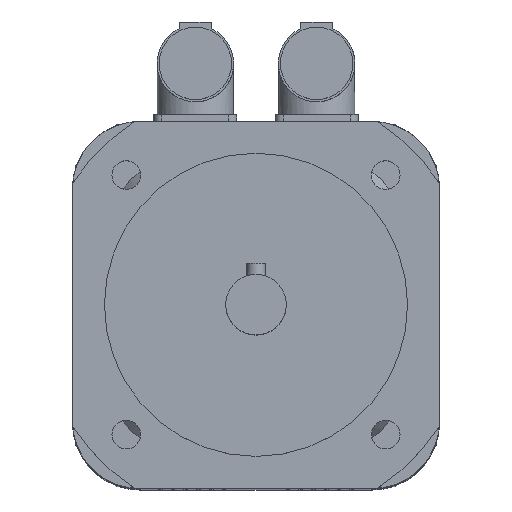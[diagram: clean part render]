
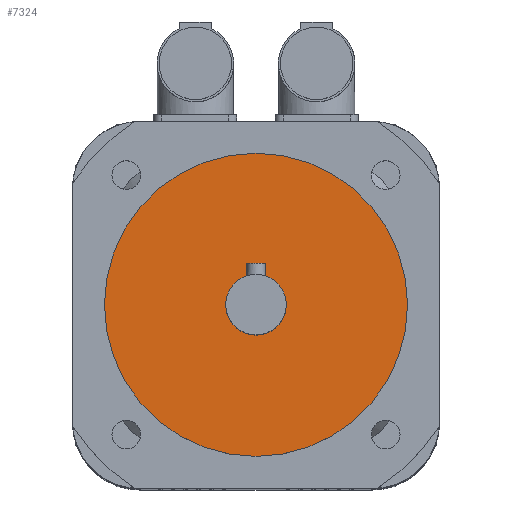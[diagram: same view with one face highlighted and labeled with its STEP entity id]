
A CAD part, top view. The second image highlights one B-rep face of the part: STEP entity #7324.
In plain terms, the highlighted planar face has unit normal (0, 0, 1).
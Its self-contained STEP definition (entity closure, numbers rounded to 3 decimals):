
#60=FACE_BOUND('',#993,.T.);
#151=CIRCLE('',#7810,9.5);
#152=CIRCLE('',#7812,47.5);
#524=FACE_OUTER_BOUND('',#992,.T.);
#992=EDGE_LOOP('',(#5019));
#993=EDGE_LOOP('',(#5020));
#3155=VERTEX_POINT('',#11148);
#3156=VERTEX_POINT('',#11151);
#3882=EDGE_CURVE('',#3155,#3155,#151,.T.);
#3883=EDGE_CURVE('',#3156,#3156,#152,.T.);
#5019=ORIENTED_EDGE('',*,*,#3883,.F.);
#5020=ORIENTED_EDGE('',*,*,#3882,.T.);
#6956=PLANE('',#7811);
#7324=ADVANCED_FACE('',(#524,#60),#6956,.T.);
#7810=AXIS2_PLACEMENT_3D('',#11149,#8756,#8757);
#7811=AXIS2_PLACEMENT_3D('',#11150,#8758,#8759);
#7812=AXIS2_PLACEMENT_3D('',#11152,#8760,#8761);
#8756=DIRECTION('center_axis',(0.,0.,-1.));
#8757=DIRECTION('ref_axis',(1.,0.,0.));
#8758=DIRECTION('center_axis',(0.,0.,1.));
#8759=DIRECTION('ref_axis',(1.,0.,0.));
#8760=DIRECTION('center_axis',(0.,0.,-1.));
#8761=DIRECTION('ref_axis',(1.,0.,0.));
#11148=CARTESIAN_POINT('',(0.,9.5,233.));
#11149=CARTESIAN_POINT('Origin',(0.,0.,233.));
#11150=CARTESIAN_POINT('Origin',(0.,47.5,233.));
#11151=CARTESIAN_POINT('',(0.,47.5,233.));
#11152=CARTESIAN_POINT('Origin',(0.,0.,233.));
